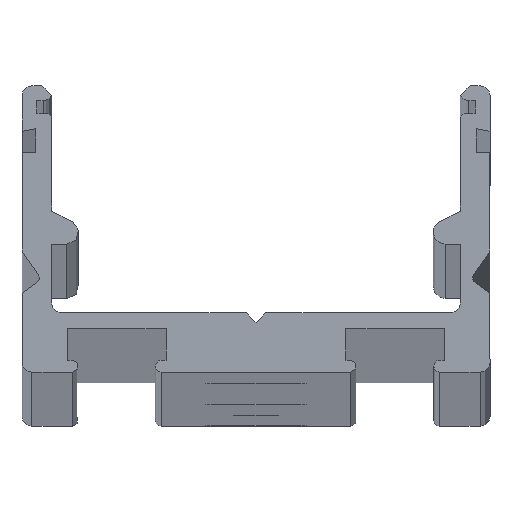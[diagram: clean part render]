
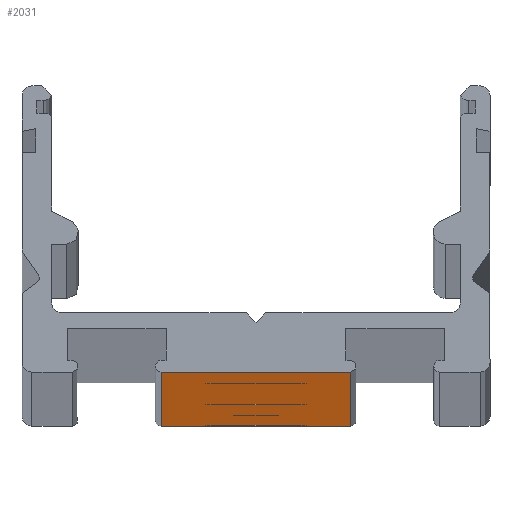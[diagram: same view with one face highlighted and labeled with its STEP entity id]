
A CAD part, top view. The second image highlights one B-rep face of the part: STEP entity #2031.
In plain terms, the highlighted planar face has unit normal (0, -1, 0).
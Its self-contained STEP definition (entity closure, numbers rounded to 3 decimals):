
#91 = DIRECTION ( 'NONE',  ( 0., 0., 1. ) ) ;
#115 = EDGE_CURVE ( 'NONE', #3428, #588, #1723, .T. ) ;
#116 = AXIS2_PLACEMENT_3D ( 'NONE', #3714, #1150, #1689 ) ;
#134 = DIRECTION ( 'NONE',  ( 0., 1., 0. ) ) ;
#156 = AXIS2_PLACEMENT_3D ( 'NONE', #1660, #508, #1373 ) ;
#169 = LINE ( 'NONE', #3616, #2496 ) ;
#212 = ORIENTED_EDGE ( 'NONE', *, *, #755, .T. ) ;
#220 = PLANE ( 'NONE',  #2492 ) ;
#227 = DIRECTION ( 'NONE',  ( 0., 1., 0. ) ) ;
#235 = DIRECTION ( 'NONE',  ( 0., 1., 0. ) ) ;
#255 = ORIENTED_EDGE ( 'NONE', *, *, #2581, .T. ) ;
#268 = CIRCLE ( 'NONE', #2005, 2.553 ) ;
#282 = CARTESIAN_POINT ( 'NONE',  ( 0., 0., 152.4 ) ) ;
#294 = ORIENTED_EDGE ( 'NONE', *, *, #1796, .T. ) ;
#388 = EDGE_CURVE ( 'NONE', #3383, #2210, #268, .T. ) ;
#401 = CIRCLE ( 'NONE', #2488, 2.553 ) ;
#406 = AXIS2_PLACEMENT_3D ( 'NONE', #1129, #2572, #3708 ) ;
#419 = VERTEX_POINT ( 'NONE', #2693 ) ;
#421 = DIRECTION ( 'NONE',  ( 1., 0., 0. ) ) ;
#423 = CARTESIAN_POINT ( 'NONE',  ( 0., 0., -759.447 ) ) ;
#490 = ORIENTED_EDGE ( 'NONE', *, *, #388, .T. ) ;
#508 = DIRECTION ( 'NONE',  ( 0., 1., 0. ) ) ;
#529 = EDGE_CURVE ( 'NONE', #885, #2465, #2360, .T. ) ;
#587 = VECTOR ( 'NONE', #1814, 1000. ) ;
#588 = VERTEX_POINT ( 'NONE', #2784 ) ;
#621 = EDGE_CURVE ( 'NONE', #1560, #2507, #2839, .T. ) ;
#683 = CARTESIAN_POINT ( 'NONE',  ( 4.8, 0., 787.4 ) ) ;
#700 = CIRCLE ( 'NONE', #1173, 2.553 ) ;
#726 = ORIENTED_EDGE ( 'NONE', *, *, #115, .T. ) ;
#754 = ORIENTED_EDGE ( 'NONE', *, *, #2373, .F. ) ;
#755 = EDGE_CURVE ( 'NONE', #2976, #2824, #812, .T. ) ;
#789 = VERTEX_POINT ( 'NONE', #683 ) ;
#796 = FACE_BOUND ( 'NONE', #2696, .T. ) ;
#799 = ORIENTED_EDGE ( 'NONE', *, *, #529, .T. ) ;
#812 = CIRCLE ( 'NONE', #1882, 2.553 ) ;
#830 = AXIS2_PLACEMENT_3D ( 'NONE', #1783, #2874, #3506 ) ;
#833 = CARTESIAN_POINT ( 'NONE',  ( 0., 0., 152.4 ) ) ;
#884 = CIRCLE ( 'NONE', #830, 2.553 ) ;
#885 = VERTEX_POINT ( 'NONE', #2720 ) ;
#887 = DIRECTION ( 'NONE',  ( 0., 1., 0. ) ) ;
#898 = CARTESIAN_POINT ( 'NONE',  ( 0., 0., 459.753 ) ) ;
#996 = CIRCLE ( 'NONE', #406, 2.553 ) ;
#1001 = VERTEX_POINT ( 'NONE', #2531 ) ;
#1094 = CARTESIAN_POINT ( 'NONE',  ( 0., 0., 457.2 ) ) ;
#1101 = AXIS2_PLACEMENT_3D ( 'NONE', #2803, #3694, #1336 ) ;
#1129 = CARTESIAN_POINT ( 'NONE',  ( 0., 0., -457.2 ) ) ;
#1150 = DIRECTION ( 'NONE',  ( 0., 1., 0. ) ) ;
#1160 = CARTESIAN_POINT ( 'NONE',  ( 0., 0., 762. ) ) ;
#1170 = DIRECTION ( 'NONE',  ( 0., 0., 1. ) ) ;
#1173 = AXIS2_PLACEMENT_3D ( 'NONE', #3367, #235, #1625 ) ;
#1237 = LINE ( 'NONE', #3272, #1533 ) ;
#1247 = EDGE_CURVE ( 'NONE', #1001, #789, #3294, .T. ) ;
#1248 = CARTESIAN_POINT ( 'NONE',  ( 0., 0., -457.2 ) ) ;
#1260 = DIRECTION ( 'NONE',  ( 1., 0., 0. ) ) ;
#1285 = VERTEX_POINT ( 'NONE', #1609 ) ;
#1336 = DIRECTION ( 'NONE',  ( 0., 0., 1. ) ) ;
#1357 = ORIENTED_EDGE ( 'NONE', *, *, #2441, .T. ) ;
#1373 = DIRECTION ( 'NONE',  ( 0., 0., 1. ) ) ;
#1376 = EDGE_CURVE ( 'NONE', #2546, #2997, #700, .T. ) ;
#1480 = AXIS2_PLACEMENT_3D ( 'NONE', #1160, #887, #2308 ) ;
#1524 = EDGE_LOOP ( 'NONE', ( #294, #799 ) ) ;
#1525 = ORIENTED_EDGE ( 'NONE', *, *, #1376, .T. ) ;
#1533 = VECTOR ( 'NONE', #1836, 1000. ) ;
#1560 = VERTEX_POINT ( 'NONE', #3321 ) ;
#1582 = VECTOR ( 'NONE', #421, 1000. ) ;
#1609 = CARTESIAN_POINT ( 'NONE',  ( 4.8, 0., -787.4 ) ) ;
#1611 = CARTESIAN_POINT ( 'NONE',  ( 0., 0., 764.553 ) ) ;
#1625 = DIRECTION ( 'NONE',  ( 0., 0., 1. ) ) ;
#1660 = CARTESIAN_POINT ( 'NONE',  ( 0., 0., -152.4 ) ) ;
#1664 = EDGE_CURVE ( 'NONE', #2997, #2546, #401, .T. ) ;
#1670 = FACE_OUTER_BOUND ( 'NONE', #1727, .T. ) ;
#1689 = DIRECTION ( 'NONE',  ( 0., 0., 1. ) ) ;
#1723 = CIRCLE ( 'NONE', #116, 2.553 ) ;
#1727 = EDGE_LOOP ( 'NONE', ( #3093, #754, #3425, #1829 ) ) ;
#1783 = CARTESIAN_POINT ( 'NONE',  ( 0., 0., -762. ) ) ;
#1788 = EDGE_LOOP ( 'NONE', ( #3517, #1525 ) ) ;
#1796 = EDGE_CURVE ( 'NONE', #2465, #885, #2433, .T. ) ;
#1814 = DIRECTION ( 'NONE',  ( 0., 0., -1. ) ) ;
#1829 = ORIENTED_EDGE ( 'NONE', *, *, #2300, .T. ) ;
#1836 = DIRECTION ( 'NONE',  ( 0., 0., -1. ) ) ;
#1876 = EDGE_LOOP ( 'NONE', ( #1357, #212 ) ) ;
#1882 = AXIS2_PLACEMENT_3D ( 'NONE', #282, #2580, #3481 ) ;
#1976 = DIRECTION ( 'NONE',  ( 0., 1., 0. ) ) ;
#1986 = EDGE_CURVE ( 'NONE', #2210, #3383, #996, .T. ) ;
#2005 = AXIS2_PLACEMENT_3D ( 'NONE', #1248, #134, #91 ) ;
#2031 = ADVANCED_FACE ( 'NONE', ( #2777, #3374, #2276, #3667, #796, #2852, #1670 ), #220, .F. ) ;
#2058 = ORIENTED_EDGE ( 'NONE', *, *, #1986, .T. ) ;
#2089 = CARTESIAN_POINT ( 'NONE',  ( 0., 0., -152.4 ) ) ;
#2114 = EDGE_CURVE ( 'NONE', #588, #3428, #884, .T. ) ;
#2210 = VERTEX_POINT ( 'NONE', #3162 ) ;
#2215 = CARTESIAN_POINT ( 'NONE',  ( 0., 0., -149.847 ) ) ;
#2276 = FACE_BOUND ( 'NONE', #1876, .T. ) ;
#2300 = EDGE_CURVE ( 'NONE', #1001, #419, #3253, .T. ) ;
#2308 = DIRECTION ( 'NONE',  ( 0., 0., 1. ) ) ;
#2323 = AXIS2_PLACEMENT_3D ( 'NONE', #833, #2809, #2758 ) ;
#2328 = CARTESIAN_POINT ( 'NONE',  ( 0., 0., 454.647 ) ) ;
#2337 = DIRECTION ( 'NONE',  ( 0., 1., 0. ) ) ;
#2360 = CIRCLE ( 'NONE', #156, 2.553 ) ;
#2373 = EDGE_CURVE ( 'NONE', #789, #1285, #1237, .T. ) ;
#2433 = CIRCLE ( 'NONE', #3156, 2.553 ) ;
#2441 = EDGE_CURVE ( 'NONE', #2824, #2976, #3290, .T. ) ;
#2465 = VERTEX_POINT ( 'NONE', #2215 ) ;
#2479 = ORIENTED_EDGE ( 'NONE', *, *, #621, .T. ) ;
#2486 = EDGE_LOOP ( 'NONE', ( #255, #2479 ) ) ;
#2488 = AXIS2_PLACEMENT_3D ( 'NONE', #1094, #227, #2504 ) ;
#2492 = AXIS2_PLACEMENT_3D ( 'NONE', #3392, #1976, #3433 ) ;
#2496 = VECTOR ( 'NONE', #1260, 1000. ) ;
#2504 = DIRECTION ( 'NONE',  ( 0., 0., 1. ) ) ;
#2507 = VERTEX_POINT ( 'NONE', #1611 ) ;
#2531 = CARTESIAN_POINT ( 'NONE',  ( -4.8, 0., 787.4 ) ) ;
#2546 = VERTEX_POINT ( 'NONE', #2328 ) ;
#2572 = DIRECTION ( 'NONE',  ( 0., 1., 0. ) ) ;
#2580 = DIRECTION ( 'NONE',  ( 0., 1., 0. ) ) ;
#2581 = EDGE_CURVE ( 'NONE', #2507, #1560, #3099, .T. ) ;
#2649 = EDGE_LOOP ( 'NONE', ( #726, #2750 ) ) ;
#2693 = CARTESIAN_POINT ( 'NONE',  ( -4.8, 0., -787.4 ) ) ;
#2696 = EDGE_LOOP ( 'NONE', ( #490, #2058 ) ) ;
#2720 = CARTESIAN_POINT ( 'NONE',  ( 0., 0., -154.953 ) ) ;
#2750 = ORIENTED_EDGE ( 'NONE', *, *, #2114, .T. ) ;
#2758 = DIRECTION ( 'NONE',  ( 0., 0., 1. ) ) ;
#2759 = CARTESIAN_POINT ( 'NONE',  ( 0., 0., -454.647 ) ) ;
#2777 = FACE_BOUND ( 'NONE', #2486, .T. ) ;
#2784 = CARTESIAN_POINT ( 'NONE',  ( 0., 0., -764.553 ) ) ;
#2802 = CARTESIAN_POINT ( 'NONE',  ( 0., 0., 154.953 ) ) ;
#2803 = CARTESIAN_POINT ( 'NONE',  ( 0., 0., 762. ) ) ;
#2809 = DIRECTION ( 'NONE',  ( 0., 1., 0. ) ) ;
#2824 = VERTEX_POINT ( 'NONE', #2802 ) ;
#2839 = CIRCLE ( 'NONE', #1101, 2.553 ) ;
#2852 = FACE_BOUND ( 'NONE', #2649, .T. ) ;
#2874 = DIRECTION ( 'NONE',  ( 0., 1., 0. ) ) ;
#2976 = VERTEX_POINT ( 'NONE', #3187 ) ;
#2997 = VERTEX_POINT ( 'NONE', #898 ) ;
#3015 = EDGE_CURVE ( 'NONE', #419, #1285, #169, .T. ) ;
#3093 = ORIENTED_EDGE ( 'NONE', *, *, #3015, .T. ) ;
#3099 = CIRCLE ( 'NONE', #1480, 2.553 ) ;
#3156 = AXIS2_PLACEMENT_3D ( 'NONE', #2089, #2337, #1170 ) ;
#3162 = CARTESIAN_POINT ( 'NONE',  ( 0., 0., -459.753 ) ) ;
#3187 = CARTESIAN_POINT ( 'NONE',  ( 0., 0., 149.847 ) ) ;
#3253 = LINE ( 'NONE', #3330, #587 ) ;
#3272 = CARTESIAN_POINT ( 'NONE',  ( 4.8, 0., 787.4 ) ) ;
#3290 = CIRCLE ( 'NONE', #2323, 2.553 ) ;
#3294 = LINE ( 'NONE', #3593, #1582 ) ;
#3321 = CARTESIAN_POINT ( 'NONE',  ( 0., 0., 759.447 ) ) ;
#3330 = CARTESIAN_POINT ( 'NONE',  ( -4.8, 0., 787.4 ) ) ;
#3367 = CARTESIAN_POINT ( 'NONE',  ( 0., 0., 457.2 ) ) ;
#3374 = FACE_BOUND ( 'NONE', #1788, .T. ) ;
#3383 = VERTEX_POINT ( 'NONE', #2759 ) ;
#3392 = CARTESIAN_POINT ( 'NONE',  ( -4.8, 0., 787.4 ) ) ;
#3425 = ORIENTED_EDGE ( 'NONE', *, *, #1247, .F. ) ;
#3428 = VERTEX_POINT ( 'NONE', #423 ) ;
#3433 = DIRECTION ( 'NONE',  ( 0., 0., 1. ) ) ;
#3481 = DIRECTION ( 'NONE',  ( 0., 0., 1. ) ) ;
#3506 = DIRECTION ( 'NONE',  ( 0., 0., 1. ) ) ;
#3517 = ORIENTED_EDGE ( 'NONE', *, *, #1664, .T. ) ;
#3593 = CARTESIAN_POINT ( 'NONE',  ( -4.8, 0., 787.4 ) ) ;
#3616 = CARTESIAN_POINT ( 'NONE',  ( -4.8, 0., -787.4 ) ) ;
#3667 = FACE_BOUND ( 'NONE', #1524, .T. ) ;
#3694 = DIRECTION ( 'NONE',  ( 0., 1., 0. ) ) ;
#3708 = DIRECTION ( 'NONE',  ( 0., 0., 1. ) ) ;
#3714 = CARTESIAN_POINT ( 'NONE',  ( 0., 0., -762. ) ) ;
